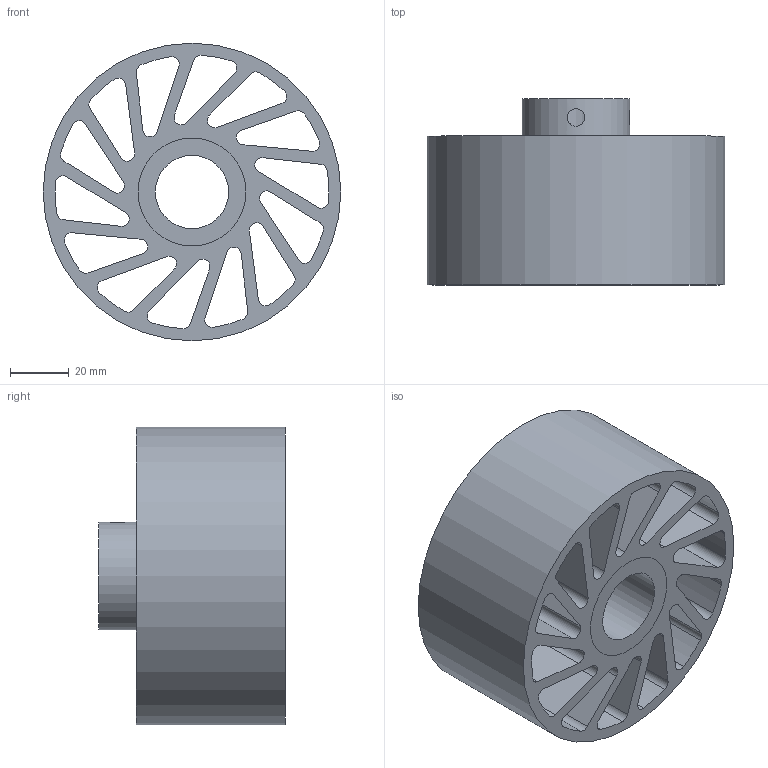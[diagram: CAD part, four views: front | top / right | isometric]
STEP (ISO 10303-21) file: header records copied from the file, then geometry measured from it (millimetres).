
FILE_DESCRIPTION(/* description */ (''),/* implementation_level */ '2;1');
FILE_NAME(/* name */ 'NCWM-430-XXX-YYY.stp',/* time_stamp */ '2023-02-02T16:27:47-06:00',/* author */ ('AG'),/* organization */ ('Meridian Laboratory'),/* preprocessor_version */ 'ST-DEVELOPER v18.1',/* originating_system */ 'Autodesk Inventor 2022',/* authorisation */ '');
FILE_SCHEMA (('AUTOMOTIVE_DESIGN { 1 0 10303 214 3 1 1 }','PROCESS_PLANNING_SCHEMA'));
Length unit declared in the file: millimetre
Products named in the file (1): NCWM-340
Bounding box: 101.6 x 63.5 x 101.6 mm (x, y, z)
Volume: 212895.7 mm3; surface area: 91853.2 mm2
Topology: 2 solids, 2 shells, 94 faces, 276 edges, 186 vertices
Faces by surface type: cylinder 62, plane 32
Full cylindrical faces by diameter (mm): 6 x2, 25.025 x1, 36.83 x2, 101.6 x1
Entity records: 3528 total; most frequent: CARTESIAN_POINT 697, DIRECTION 576, ORIENTED_EDGE 552, EDGE_CURVE 276, AXIS2_PLACEMENT_3D 215, VERTEX_POINT 186, LINE 146, VECTOR 146
